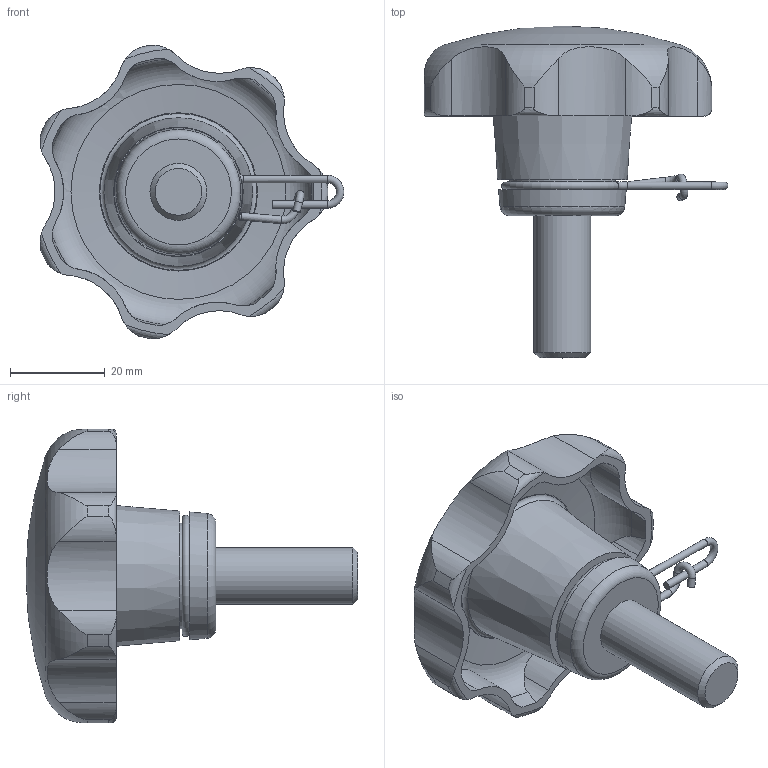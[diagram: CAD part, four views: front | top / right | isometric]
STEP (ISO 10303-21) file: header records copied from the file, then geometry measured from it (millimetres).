
FILE_DESCRIPTION( ( 'STEP AP203' ), '1' );
FILE_NAME( 'C:/Temp/Ganter_Step_05_03_2020/data/2_2/gn_6336_13/gn_6336_13_2/Star knob GN 6336.13-63-M12-30-A.stp', '2020-03-05T12:11:18', ( 'License CC BY-ND 4.0' ), ( 'CADENAS' ), ' ', 'PARTsolutions', ' ' );
FILE_SCHEMA( ( 'CONFIG_CONTROL_DESIGN' ) );
Length unit declared in the file: millimetre
Products named in the file (1): _Star knob GN 6336.13-63-M12-30-A
Bounding box: 64.05 x 70 x 61.94 mm (x, y, z)
Volume: 44353.6 mm3; surface area: 13793.7 mm2
Topology: 1 solids, 1 shells, 100 faces, 268 edges, 174 vertices
Faces by surface type: cylinder 59, torus 18, plane 11, cone 11, sphere 1
Full cylindrical faces by diameter (mm): 1.6 x6, 12 x1, 22.3 x1
Entity records: 3980 total; most frequent: CARTESIAN_POINT 1605, DIRECTION 480, ORIENTED_EDGE 476, EDGE_CURVE 238, AXIS2_PLACEMENT_3D 215, VERTEX_POINT 170, EDGE_LOOP 127, FACE_OUTER_BOUND 118
